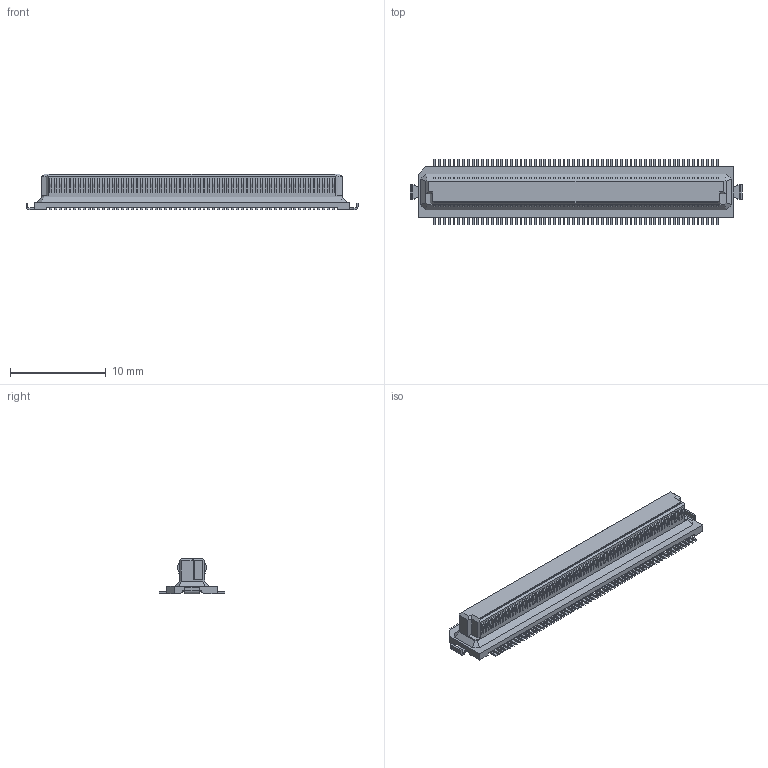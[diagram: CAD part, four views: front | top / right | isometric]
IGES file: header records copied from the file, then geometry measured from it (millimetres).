
Start section: Elysium IGES Interface
Global section: file name: 122HG:\その他\DY関連\CAD\依頼書（ウェブ）_HP用データ\60-36-0111_DY1X-S-1-H\P3E150_DY10-120SB-1-T-H\P3E150_DY10-120SB-1-T-H.igs; native system: Creo Elements/Direct Modeling 20.4A  18-Oct-2021; preprocessor: Creo Element/Direct IGES_3D V2.2; author: Unknown; organization: Unknown; date: 20220301.092649; units: millimetre
Bounding box: 34.7 x 6.8 x 3.73 mm (x, y, z)
Volume: 354.7 mm3; surface area: 752.4 mm2
Topology: 1 solids, 1 shells, 1804 faces, 4651 edges, 3090 vertices
Faces by surface type: bspline 1804
